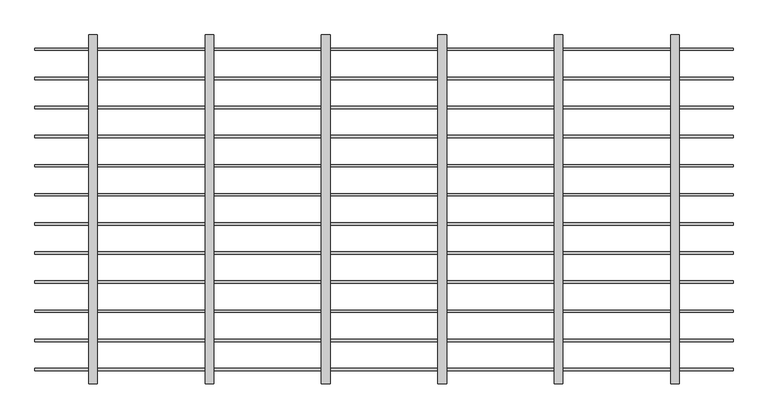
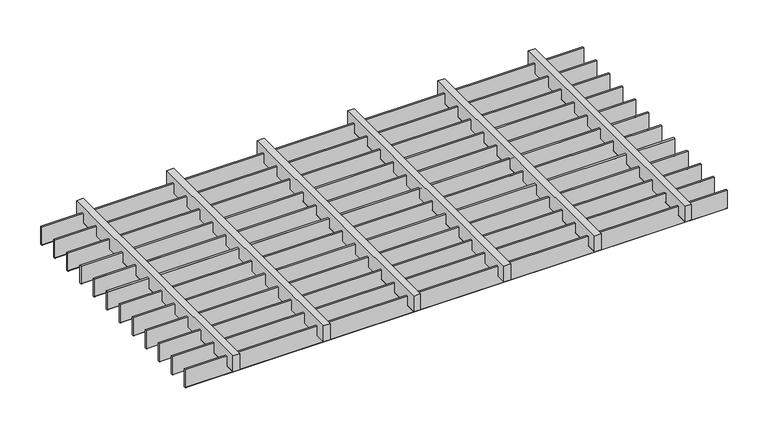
"""IFC4 building model written with IfcOpenShell, lengths in millimetres: proxy geometry, durlum_STARLAM_panel : durlum_STARLAM_4."""

import ifcopenshell
import ifcopenshell.guid

model = None  # the IFC model being written
_history = None  # IfcOwnerHistory: only IFC2X3 demands one
_inside = {}  # id of a spatial element -> (the spatial element, [elements in it])
_under = {}  # id of a project, library or spatial element -> (it, [spatial elements below it])
_declared = {}  # id of a project -> (the project, [libraries it declares])
_typed = {}  # id of a type object -> (the type object, [elements of that type])
_made_of = {}  # id of a material, layer set ... -> (it, [elements and type objects made of it])


def new_model(schema):
    """Start an empty IFC model of exactly this schema.

    Asked for "IFC4X3", IfcOpenShell would pick the latest addendum, in which some entities
    have other attributes; the version numbers below select the first issue.
    IFC2X3 requires an IfcOwnerHistory on every rooted entity: one is made here for all.
    """
    global model, _history
    if schema == "IFC4X3":
        model = ifcopenshell.file(schema_version=(4, 3, 0, 0))
    else:
        model = ifcopenshell.file(schema=schema)
    _inside.clear()
    _under.clear()
    _declared.clear()
    _typed.clear()
    _made_of.clear()
    _history = None
    if model.schema == "IFC2X3":
        org = make("IfcOrganization", Name="unknown")
        user = make(
            "IfcPersonAndOrganization",
            ThePerson=make("IfcPerson", FamilyName="unknown"),
            TheOrganization=org,
        )
        app = make(
            "IfcApplication",
            ApplicationDeveloper=org,
            Version="unknown",
            ApplicationFullName="unknown",
            ApplicationIdentifier="unknown",
        )
        _history = make(
            "IfcOwnerHistory",
            OwningUser=user,
            OwningApplication=app,
            ChangeAction="ADDED",
            CreationDate=0,
        )
    return model


def make(cls, **values):
    """One entity of the class cls with the attributes given. An attribute that is None is left unset."""
    return model.create_entity(
        cls, **{name: value for name, value in values.items() if value is not None}
    )


def rooted(cls, **values):
    """An entity with a GlobalId (a new one), such as an element, a storey or a relation."""
    return make(cls, GlobalId=ifcopenshell.guid.new(), OwnerHistory=_history, **values)


def si_unit(unit_type, name, prefix=None):
    """IfcSIUnit, for example si_unit("LENGTHUNIT", "METRE", prefix="MILLI")."""
    return make("IfcSIUnit", UnitType=unit_type, Prefix=prefix, Name=name)


def assignment(units):
    """IfcUnitAssignment: the units of a project."""
    return None if units is None else make("IfcUnitAssignment", Units=units)


def point(xyz):
    """IfcCartesianPoint."""
    return None if xyz is None else make("IfcCartesianPoint", Coordinates=xyz)


def direction(xyz):
    """IfcDirection."""
    return None if xyz is None else make("IfcDirection", DirectionRatios=xyz)


def frame(location, z_axis=None, x_axis=None):
    """IfcAxis2Placement3D, a coordinate frame: its origin and axes. An axis left out is left unset."""
    return make(
        "IfcAxis2Placement3D",
        Location=point(location),
        Axis=direction(z_axis),
        RefDirection=direction(x_axis),
    )


def frame_2d(location, x_axis=None):
    """IfcAxis2Placement2D, a coordinate frame in the plane: its origin and x axis."""
    return make(
        "IfcAxis2Placement2D", Location=point(location), RefDirection=direction(x_axis)
    )


def origin():
    """The frame at (0, 0, 0) with its axes left unset."""
    return frame((0.0, 0.0, 0.0))


def place(relative_to, where):
    """IfcLocalPlacement: puts the frame where relative to a parent placement (None: the world)."""
    return make(
        "IfcLocalPlacement", PlacementRelTo=relative_to, RelativePlacement=where
    )


def context(
    kind, dimensions, precision=None, world=None, true_north=None, identifier=None
):
    """IfcGeometricRepresentationContext, for example the 3D "Model" context."""
    return make(
        "IfcGeometricRepresentationContext",
        ContextIdentifier=identifier,
        ContextType=kind,
        CoordinateSpaceDimension=dimensions,
        Precision=precision,
        WorldCoordinateSystem=world,
        TrueNorth=true_north,
    )


def project(units=None, contexts=None):
    """IfcProject with its units and contexts."""
    return rooted(
        "IfcProject",
        Name="project",
        RepresentationContexts=contexts,
        UnitsInContext=assignment(units),
    )


def spatial(cls, under=None, at=None, **own):
    """A site, building, storey or space (cls), placed at a placement, below another one or the project."""
    s = rooted(cls, ObjectPlacement=at, **own)
    if under is not None:
        _under.setdefault(under.id(), (under, []))[1].append(s)
    return s


def polyline(points):
    """IfcPolyline through the points."""
    return make("IfcPolyline", Points=[point(p) for p in points])


def circle_curve(where, radius):
    """IfcCircle in the frame where."""
    return make("IfcCircle", Position=where, Radius=radius)


def trimmed(basis, trim1, trim2, sense, master):
    """IfcTrimmedCurve: the piece of a basis curve between two trims."""
    return make(
        "IfcTrimmedCurve",
        BasisCurve=basis,
        Trim1=trim1,
        Trim2=trim2,
        SenseAgreement=sense,
        MasterRepresentation=master,
    )


def segment(curve, same_sense, transition):
    """IfcCompositeCurveSegment."""
    return make(
        "IfcCompositeCurveSegment",
        Transition=transition,
        SameSense=same_sense,
        ParentCurve=curve,
    )


def composite_curve(segments, self_intersect=None):
    """IfcCompositeCurve: segments joined end to end."""
    return make("IfcCompositeCurve", Segments=segments, SelfIntersect=self_intersect)


def outline(outer, holes=None, kind="AREA"):
    """IfcArbitraryClosedProfileDef: a profile drawn as a closed curve; with holes, ...WithVoids."""
    if holes is None:
        return make("IfcArbitraryClosedProfileDef", ProfileType=kind, OuterCurve=outer)
    return make(
        "IfcArbitraryProfileDefWithVoids",
        ProfileType=kind,
        OuterCurve=outer,
        InnerCurves=holes,
    )


def extrude(swept, where, along, depth):
    """IfcExtrudedAreaSolid: the profile swept, set in the frame where, extruded along a direction by depth."""
    return make(
        "IfcExtrudedAreaSolid",
        SweptArea=swept,
        Position=where,
        ExtrudedDirection=direction(along),
        Depth=depth,
    )


def shape(context_of_items, identifier, shape_type, items):
    """IfcShapeRepresentation: the items that make up one representation, for example the "Body"."""
    return make(
        "IfcShapeRepresentation",
        ContextOfItems=context_of_items,
        RepresentationIdentifier=identifier,
        RepresentationType=shape_type,
        Items=items,
    )


def source(mapping_origin, context_of_items, identifier, shape_type, items):
    """IfcRepresentationMap: a shape defined once, which mapped items show again and again."""
    return make(
        "IfcRepresentationMap",
        MappingOrigin=mapping_origin,
        MappedRepresentation=shape(context_of_items, identifier, shape_type, items),
    )


def transform(
    local_origin,
    x_axis=None,
    y_axis=None,
    z_axis=None,
    scale=None,
    scale2=None,
    scale3=None,
    uniform=True,
):
    """IfcCartesianTransformationOperator3D, or its non-uniform kind. x_axis, y_axis, z_axis: its Axis1, 2, 3."""
    if uniform:
        return make(
            "IfcCartesianTransformationOperator3D",
            Axis1=direction(x_axis),
            Axis2=direction(y_axis),
            LocalOrigin=point(local_origin),
            Scale=scale,
            Axis3=direction(z_axis),
        )
    return make(
        "IfcCartesianTransformationOperator3DnonUniform",
        Axis1=direction(x_axis),
        Axis2=direction(y_axis),
        LocalOrigin=point(local_origin),
        Scale=scale,
        Axis3=direction(z_axis),
        Scale2=scale2,
        Scale3=scale3,
    )


def mapped(mapping_source, mapping_target):
    """IfcMappedItem: shows the shape of a source again, moved by a transform."""
    return make(
        "IfcMappedItem", MappingSource=mapping_source, MappingTarget=mapping_target
    )


def made_of(thing, what):
    """Note that an element or type object is made of a material, layer set ...; save() writes the relation."""
    if what is not None:
        _made_of.setdefault(what.id(), (what, []))[1].append(thing)
    return thing


def element(
    cls,
    number,
    at=None,
    inside=None,
    cuts=None,
    type_object=None,
    material=None,
    context=None,
    identifier="Body",
    shape_type=None,
    held_by="IfcProductDefinitionShape",
    body=None,
    shapes=None,
    **own,
):
    """One element of the class cls, such as IfcWall. Its Tag is "e" and its number.

    at: its placement. inside: the storey or other place that contains it. cuts: it is an
    opening in that element (IfcRelVoidsElement). A single representation is given by context,
    identifier, shape_type and body (its items); several are given by shapes. held_by: the class
    of the entity that holds the representations. save() writes the other relations.
    """
    e = rooted(cls, Tag="e%d" % number, ObjectPlacement=at, **own)
    if body is not None:
        shapes = [shape(context, identifier, shape_type, body)]
    if shapes is not None:
        e.Representation = make(held_by, Representations=shapes)
    if inside is not None:
        _inside.setdefault(inside.id(), (inside, []))[1].append(e)
    if cuts is not None:
        rooted(
            "IfcRelVoidsElement", RelatingBuildingElement=cuts, RelatedOpeningElement=e
        )
    if type_object is not None:
        _typed.setdefault(type_object.id(), (type_object, []))[1].append(e)
    return made_of(e, material)


def aggregate(whole, parts):
    """IfcRelAggregates: a whole, such as a stair, and the parts it consists of."""
    return rooted("IfcRelAggregates", RelatingObject=whole, RelatedObjects=parts)


def save(model, path):
    """Write the relations noted so far, then the file.

    IfcRelAggregates (storeys below a building ...), IfcRelContainedInSpatialStructure (elements
    in a storey), IfcRelDefinesByType, IfcRelAssociatesMaterial and IfcRelDeclares: one each for
    every whole, place, type object, material and project.
    """
    for whole, parts in _under.values():
        aggregate(whole, parts)
    for where, things in _inside.values():
        rooted(
            "IfcRelContainedInSpatialStructure",
            RelatedElements=things,
            RelatingStructure=where,
        )
    for kind, things in _typed.values():
        rooted("IfcRelDefinesByType", RelatedObjects=things, RelatingType=kind)
    for what, things in _made_of.values():
        rooted("IfcRelAssociatesMaterial", RelatedObjects=things, RelatingMaterial=what)
    for by, libraries in _declared.values():
        rooted("IfcRelDeclares", RelatingContext=by, RelatedDefinitions=libraries)
    model.write(path)


def generic_models_6f951ca4(model_context):
    return source(origin(), model_context, "Body", "SweptSolid", [
        extrude(outline(composite_curve([segment(polyline([(-227.0, 42.0), (-223.0, 42.0), (-223.0, 0.5)]), True, "CONTINUOUS"), segment(trimmed(circle_curve(frame_2d((-223.5, 0.5)), 0.5), [point((-223.0, 0.5))], [point((-223.5, 0.0))], False, "CARTESIAN"), True, "CONTINUOUS"), segment(polyline([(-223.5, 0.0), (-226.5, 0.0)]), True, "CONTINUOUS"), segment(trimmed(circle_curve(frame_2d((-226.5, 0.5)), 0.5), [point((-226.5, 0.0))], [point((-227.0, 0.5))], False, "CARTESIAN"), True, "CONTINUOUS"), segment(polyline([(-227.0, 0.5), (-227.0, 42.0)]), True, "CONTINUOUS")], self_intersect=False)), frame((-599.75, 0.0, 0.0), z_axis=(1.0, 0.0, 0.0), x_axis=(0.0, 1.0, 0.0)), (0.0, 0.0, 1.0), 1199.5),
        extrude(outline(composite_curve([segment(polyline([(-177.0, 42.0), (-173.0, 42.0), (-173.0, 0.5)]), True, "CONTINUOUS"), segment(trimmed(circle_curve(frame_2d((-173.5, 0.5)), 0.5), [point((-173.0, 0.5))], [point((-173.5, 0.0))], False, "CARTESIAN"), True, "CONTINUOUS"), segment(polyline([(-173.5, 0.0), (-176.5, 0.0)]), True, "CONTINUOUS"), segment(trimmed(circle_curve(frame_2d((-176.5, 0.5)), 0.5), [point((-176.5, 0.0))], [point((-177.0, 0.5))], False, "CARTESIAN"), True, "CONTINUOUS"), segment(polyline([(-177.0, 0.5), (-177.0, 42.0)]), True, "CONTINUOUS")], self_intersect=False)), frame((-599.75, 0.0, 0.0), z_axis=(1.0, 0.0, 0.0), x_axis=(0.0, 1.0, 0.0)), (0.0, 0.0, 1.0), 1199.5),
        extrude(outline(composite_curve([segment(polyline([(-127.0, 42.0), (-123.0, 42.0), (-123.0, 0.5)]), True, "CONTINUOUS"), segment(trimmed(circle_curve(frame_2d((-123.5, 0.5)), 0.5), [point((-123.0, 0.5))], [point((-123.5, 0.0))], False, "CARTESIAN"), True, "CONTINUOUS"), segment(polyline([(-123.5, 0.0), (-126.5, 0.0)]), True, "CONTINUOUS"), segment(trimmed(circle_curve(frame_2d((-126.5, 0.5)), 0.5), [point((-126.5, 0.0))], [point((-127.0, 0.5))], False, "CARTESIAN"), True, "CONTINUOUS"), segment(polyline([(-127.0, 0.5), (-127.0, 42.0)]), True, "CONTINUOUS")], self_intersect=False)), frame((-599.75, 0.0, 0.0), z_axis=(1.0, 0.0, 0.0), x_axis=(0.0, 1.0, 0.0)), (0.0, 0.0, 1.0), 1199.5),
        extrude(outline(composite_curve([segment(polyline([(-77.0, 42.0), (-73.0, 42.0), (-73.0, 0.5)]), True, "CONTINUOUS"), segment(trimmed(circle_curve(frame_2d((-73.5, 0.5)), 0.5), [point((-73.0, 0.5))], [point((-73.5, 0.0))], False, "CARTESIAN"), True, "CONTINUOUS"), segment(polyline([(-73.5, 0.0), (-76.5, 0.0)]), True, "CONTINUOUS"), segment(trimmed(circle_curve(frame_2d((-76.5, 0.5)), 0.5), [point((-76.5, 0.0))], [point((-77.0, 0.5))], False, "CARTESIAN"), True, "CONTINUOUS"), segment(polyline([(-77.0, 0.5), (-77.0, 42.0)]), True, "CONTINUOUS")], self_intersect=False)), frame((-599.75, 0.0, 0.0), z_axis=(1.0, 0.0, 0.0), x_axis=(0.0, 1.0, 0.0)), (0.0, 0.0, 1.0), 1199.5),
        extrude(outline(composite_curve([segment(polyline([(56.0, 307.5), (56.0, 292.5), (19.5, 292.5)]), True, "CONTINUOUS"), segment(trimmed(circle_curve(frame_2d((19.5, 293.0)), 0.5), [point((19.5, 292.5))], [point((19.0, 293.0))], False, "CARTESIAN"), True, "CONTINUOUS"), segment(polyline([(19.0, 293.0), (19.0, 307.0)]), True, "CONTINUOUS"), segment(trimmed(circle_curve(frame_2d((19.5, 307.0)), 0.5), [point((19.0, 307.0))], [point((19.5, 307.5))], False, "CARTESIAN"), True, "CONTINUOUS"), segment(polyline([(19.5, 307.5), (56.0, 307.5)]), True, "CONTINUOUS")], self_intersect=False)), frame((0.0, -299.75, 0.0), z_axis=(0.0, 1.0, 0.0), x_axis=(0.0, 0.0, 1.0)), (0.0, 0.0, 1.0), 599.5),
        extrude(outline(composite_curve([segment(polyline([(56.0, 107.5), (56.0, 92.5), (19.5, 92.5)]), True, "CONTINUOUS"), segment(trimmed(circle_curve(frame_2d((19.5, 93.0)), 0.5), [point((19.5, 92.5))], [point((19.0, 93.0))], False, "CARTESIAN"), True, "CONTINUOUS"), segment(polyline([(19.0, 93.0), (19.0, 107.0)]), True, "CONTINUOUS"), segment(trimmed(circle_curve(frame_2d((19.5, 107.0)), 0.5), [point((19.0, 107.0))], [point((19.5, 107.5))], False, "CARTESIAN"), True, "CONTINUOUS"), segment(polyline([(19.5, 107.5), (56.0, 107.5)]), True, "CONTINUOUS")], self_intersect=False)), frame((0.0, -299.75, 0.0), z_axis=(0.0, 1.0, 0.0), x_axis=(0.0, 0.0, 1.0)), (0.0, 0.0, 1.0), 599.5),
        extrude(outline(composite_curve([segment(polyline([(56.0, -92.5), (56.0, -107.5), (19.5, -107.5)]), True, "CONTINUOUS"), segment(trimmed(circle_curve(frame_2d((19.5, -107.0)), 0.5), [point((19.5, -107.5))], [point((19.0, -107.0))], False, "CARTESIAN"), True, "CONTINUOUS"), segment(polyline([(19.0, -107.0), (19.0, -93.0)]), True, "CONTINUOUS"), segment(trimmed(circle_curve(frame_2d((19.5, -93.0)), 0.5), [point((19.0, -93.0))], [point((19.5, -92.5))], False, "CARTESIAN"), True, "CONTINUOUS"), segment(polyline([(19.5, -92.5), (56.0, -92.5)]), True, "CONTINUOUS")], self_intersect=False)), frame((0.0, -299.75, 0.0), z_axis=(0.0, 1.0, 0.0), x_axis=(0.0, 0.0, 1.0)), (0.0, 0.0, 1.0), 599.5),
        extrude(outline(composite_curve([segment(polyline([(56.0, -292.5), (56.0, -307.5), (19.5, -307.5)]), True, "CONTINUOUS"), segment(trimmed(circle_curve(frame_2d((19.5, -307.0)), 0.5), [point((19.5, -307.5))], [point((19.0, -307.0))], False, "CARTESIAN"), True, "CONTINUOUS"), segment(polyline([(19.0, -307.0), (19.0, -293.0)]), True, "CONTINUOUS"), segment(trimmed(circle_curve(frame_2d((19.5, -293.0)), 0.5), [point((19.0, -293.0))], [point((19.5, -292.5))], False, "CARTESIAN"), True, "CONTINUOUS"), segment(polyline([(19.5, -292.5), (56.0, -292.5)]), True, "CONTINUOUS")], self_intersect=False)), frame((0.0, -299.75, 0.0), z_axis=(0.0, 1.0, 0.0), x_axis=(0.0, 0.0, 1.0)), (0.0, 0.0, 1.0), 599.5),
        extrude(outline(composite_curve([segment(polyline([(-27.0, 42.0), (-23.0, 42.0), (-23.0, 0.5)]), True, "CONTINUOUS"), segment(trimmed(circle_curve(frame_2d((-23.5, 0.5)), 0.5), [point((-23.0, 0.5))], [point((-23.5, 0.0))], False, "CARTESIAN"), True, "CONTINUOUS"), segment(polyline([(-23.5, 0.0), (-26.5, 0.0)]), True, "CONTINUOUS"), segment(trimmed(circle_curve(frame_2d((-26.5, 0.5)), 0.5), [point((-26.5, 0.0))], [point((-27.0, 0.5))], False, "CARTESIAN"), True, "CONTINUOUS"), segment(polyline([(-27.0, 0.5), (-27.0, 42.0)]), True, "CONTINUOUS")], self_intersect=False)), frame((-599.75, 0.0, 0.0), z_axis=(1.0, 0.0, 0.0), x_axis=(0.0, 1.0, 0.0)), (0.0, 0.0, 1.0), 1199.5),
        extrude(outline(composite_curve([segment(polyline([(23.0, 42.0), (27.0, 42.0), (27.0, 0.5)]), True, "CONTINUOUS"), segment(trimmed(circle_curve(frame_2d((26.5, 0.5)), 0.5), [point((27.0, 0.5))], [point((26.5, 0.0))], False, "CARTESIAN"), True, "CONTINUOUS"), segment(polyline([(26.5, 0.0), (23.5, 0.0)]), True, "CONTINUOUS"), segment(trimmed(circle_curve(frame_2d((23.5, 0.5)), 0.5), [point((23.5, 0.0))], [point((23.0, 0.5))], False, "CARTESIAN"), True, "CONTINUOUS"), segment(polyline([(23.0, 0.5), (23.0, 42.0)]), True, "CONTINUOUS")], self_intersect=False)), frame((-599.75, 0.0, 0.0), z_axis=(1.0, 0.0, 0.0), x_axis=(0.0, 1.0, 0.0)), (0.0, 0.0, 1.0), 1199.5),
        extrude(outline(composite_curve([segment(polyline([(73.0, 42.0), (77.0, 42.0), (77.0, 0.5)]), True, "CONTINUOUS"), segment(trimmed(circle_curve(frame_2d((76.5, 0.5)), 0.5), [point((77.0, 0.5))], [point((76.5, 0.0))], False, "CARTESIAN"), True, "CONTINUOUS"), segment(polyline([(76.5, 0.0), (73.5, 0.0)]), True, "CONTINUOUS"), segment(trimmed(circle_curve(frame_2d((73.5, 0.5)), 0.5), [point((73.5, 0.0))], [point((73.0, 0.5))], False, "CARTESIAN"), True, "CONTINUOUS"), segment(polyline([(73.0, 0.5), (73.0, 42.0)]), True, "CONTINUOUS")], self_intersect=False)), frame((-599.75, 0.0, 0.0), z_axis=(1.0, 0.0, 0.0), x_axis=(0.0, 1.0, 0.0)), (0.0, 0.0, 1.0), 1199.5),
        extrude(outline(composite_curve([segment(polyline([(123.0, 42.0), (127.0, 42.0), (127.0, 0.5)]), True, "CONTINUOUS"), segment(trimmed(circle_curve(frame_2d((126.5, 0.5)), 0.5), [point((127.0, 0.5))], [point((126.5, 0.0))], False, "CARTESIAN"), True, "CONTINUOUS"), segment(polyline([(126.5, 0.0), (123.5, 0.0)]), True, "CONTINUOUS"), segment(trimmed(circle_curve(frame_2d((123.5, 0.5)), 0.5), [point((123.5, 0.0))], [point((123.0, 0.5))], False, "CARTESIAN"), True, "CONTINUOUS"), segment(polyline([(123.0, 0.5), (123.0, 42.0)]), True, "CONTINUOUS")], self_intersect=False)), frame((-599.75, 0.0, 0.0), z_axis=(1.0, 0.0, 0.0), x_axis=(0.0, 1.0, 0.0)), (0.0, 0.0, 1.0), 1199.5),
        extrude(outline(composite_curve([segment(polyline([(173.0, 42.0), (177.0, 42.0), (177.0, 0.5)]), True, "CONTINUOUS"), segment(trimmed(circle_curve(frame_2d((176.5, 0.5)), 0.5), [point((177.0, 0.5))], [point((176.5, 0.0))], False, "CARTESIAN"), True, "CONTINUOUS"), segment(polyline([(176.5, 0.0), (173.5, 0.0)]), True, "CONTINUOUS"), segment(trimmed(circle_curve(frame_2d((173.5, 0.5)), 0.5), [point((173.5, 0.0))], [point((173.0, 0.5))], False, "CARTESIAN"), True, "CONTINUOUS"), segment(polyline([(173.0, 0.5), (173.0, 42.0)]), True, "CONTINUOUS")], self_intersect=False)), frame((-599.75, 0.0, 0.0), z_axis=(1.0, 0.0, 0.0), x_axis=(0.0, 1.0, 0.0)), (0.0, 0.0, 1.0), 1199.5),
        extrude(outline(composite_curve([segment(polyline([(223.0, 42.0), (227.0, 42.0), (227.0, 0.5)]), True, "CONTINUOUS"), segment(trimmed(circle_curve(frame_2d((226.5, 0.5)), 0.5), [point((227.0, 0.5))], [point((226.5, 0.0))], False, "CARTESIAN"), True, "CONTINUOUS"), segment(polyline([(226.5, 0.0), (223.5, 0.0)]), True, "CONTINUOUS"), segment(trimmed(circle_curve(frame_2d((223.5, 0.5)), 0.5), [point((223.5, 0.0))], [point((223.0, 0.5))], False, "CARTESIAN"), True, "CONTINUOUS"), segment(polyline([(223.0, 0.5), (223.0, 42.0)]), True, "CONTINUOUS")], self_intersect=False)), frame((-599.75, 0.0, 0.0), z_axis=(1.0, 0.0, 0.0), x_axis=(0.0, 1.0, 0.0)), (0.0, 0.0, 1.0), 1199.5),
        extrude(outline(composite_curve([segment(polyline([(56.0, 507.5), (56.0, 492.5), (19.5, 492.5)]), True, "CONTINUOUS"), segment(trimmed(circle_curve(frame_2d((19.5, 493.0)), 0.5), [point((19.5, 492.5))], [point((19.0, 493.0))], False, "CARTESIAN"), True, "CONTINUOUS"), segment(polyline([(19.0, 493.0), (19.0, 507.0)]), True, "CONTINUOUS"), segment(trimmed(circle_curve(frame_2d((19.5, 507.0)), 0.5), [point((19.0, 507.0))], [point((19.5, 507.5))], False, "CARTESIAN"), True, "CONTINUOUS"), segment(polyline([(19.5, 507.5), (56.0, 507.5)]), True, "CONTINUOUS")], self_intersect=False)), frame((0.0, -299.75, 0.0), z_axis=(0.0, 1.0, 0.0), x_axis=(0.0, 0.0, 1.0)), (0.0, 0.0, 1.0), 599.5),
        extrude(outline(composite_curve([segment(polyline([(56.0, -492.5), (56.0, -507.5), (19.5, -507.5)]), True, "CONTINUOUS"), segment(trimmed(circle_curve(frame_2d((19.5, -507.0)), 0.5), [point((19.5, -507.5))], [point((19.0, -507.0))], False, "CARTESIAN"), True, "CONTINUOUS"), segment(polyline([(19.0, -507.0), (19.0, -493.0)]), True, "CONTINUOUS"), segment(trimmed(circle_curve(frame_2d((19.5, -493.0)), 0.5), [point((19.0, -493.0))], [point((19.5, -492.5))], False, "CARTESIAN"), True, "CONTINUOUS"), segment(polyline([(19.5, -492.5), (56.0, -492.5)]), True, "CONTINUOUS")], self_intersect=False)), frame((0.0, -299.75, 0.0), z_axis=(0.0, 1.0, 0.0), x_axis=(0.0, 0.0, 1.0)), (0.0, 0.0, 1.0), 599.5),
        extrude(outline(composite_curve([segment(polyline([(-277.0, 42.0), (-273.0, 42.0), (-273.0, 0.5)]), True, "CONTINUOUS"), segment(trimmed(circle_curve(frame_2d((-273.5, 0.5)), 0.5), [point((-273.0, 0.5))], [point((-273.5, 0.0))], False, "CARTESIAN"), True, "CONTINUOUS"), segment(polyline([(-273.5, 0.0), (-276.5, 0.0)]), True, "CONTINUOUS"), segment(trimmed(circle_curve(frame_2d((-276.5, 0.5)), 0.5), [point((-276.5, 0.0))], [point((-277.0, 0.5))], False, "CARTESIAN"), True, "CONTINUOUS"), segment(polyline([(-277.0, 0.5), (-277.0, 42.0)]), True, "CONTINUOUS")], self_intersect=False)), frame((-599.75, 0.0, 0.0), z_axis=(1.0, 0.0, 0.0), x_axis=(0.0, 1.0, 0.0)), (0.0, 0.0, 1.0), 1199.5),
        extrude(outline(composite_curve([segment(polyline([(273.0, 42.0), (277.0, 42.0), (277.0, 0.5)]), True, "CONTINUOUS"), segment(trimmed(circle_curve(frame_2d((276.5, 0.5)), 0.5), [point((277.0, 0.5))], [point((276.5, 0.0))], False, "CARTESIAN"), True, "CONTINUOUS"), segment(polyline([(276.5, 0.0), (273.5, 0.0)]), True, "CONTINUOUS"), segment(trimmed(circle_curve(frame_2d((273.5, 0.5)), 0.5), [point((273.5, 0.0))], [point((273.0, 0.5))], False, "CARTESIAN"), True, "CONTINUOUS"), segment(polyline([(273.0, 0.5), (273.0, 42.0)]), True, "CONTINUOUS")], self_intersect=False)), frame((-599.75, 0.0, 0.0), z_axis=(1.0, 0.0, 0.0), x_axis=(0.0, 1.0, 0.0)), (0.0, 0.0, 1.0), 1199.5),
    ])


if __name__ == "__main__":
    model = new_model("IFC4")
    model_context = context("Model", 3, world=origin())
    ifc_project = project(units=[si_unit("LENGTHUNIT", "METRE", prefix="MILLI")], contexts=[model_context])
    site = spatial("IfcSite", under=ifc_project)
    building = spatial("IfcBuilding", under=site)
    placement = place(None, origin())
    generic_models_shape = generic_models_6f951ca4(model_context)
    element("IfcBuildingElementProxy", 1, Name="durlum_STARLAM_panel : durlum_STARLAM_4", ObjectType="durlum_STARLAM_panel : durlum_STARLAM_4", at=placement, inside=building, context=model_context, shape_type="MappedRepresentation", body=[
        mapped(generic_models_shape, transform((0.0, 0.0, 0.0), x_axis=(1.0, 0.0, 0.0), y_axis=(0.0, 1.0, 0.0), z_axis=(0.0, 0.0, 1.0))),
    ])
    save(model, "model.ifc")
